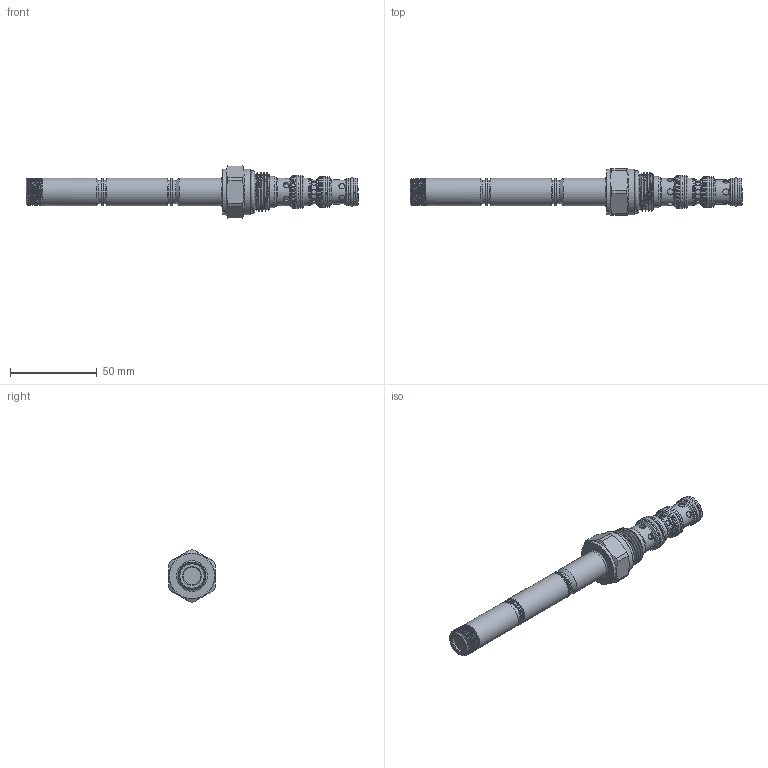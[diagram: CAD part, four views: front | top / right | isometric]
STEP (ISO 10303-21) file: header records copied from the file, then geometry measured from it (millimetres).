
FILE_DESCRIPTION(/* description */ ('','CAx-IF Rec.Pracs.---Representation and Presentation of Product Manufacturing Information (PMI)---4.0---2014-10-13'),/* implementation_level */ '2;1');
FILE_NAME(/* name */ 'P:\EARS\EAR16xx\EAR1683 - catalog pages changes\Group4a_4_Distributions_2_1_23\RTeck Agency_Tom_UNSENT\_step files\EDGS4M00.stp',/* time_stamp */ '2023-02-03T08:04:22-06:00',/* author */ ('Michael'),/* organization */ (''),/* preprocessor_version */ 'ST-DEVELOPER v17.2',/* originating_system */ 'Autodesk Inventor 2019',/* authorisation */ '');
FILE_SCHEMA (('AP242_MANAGED_MODEL_BASED_3D_ENGINEERING_MIM_LF { 1 0 10303 442 1 1 4 }'));
Length unit declared in the file: inch
Products named in the file (1): EDGS4M00
Bounding box: 191.3 x 27 x 29.99 mm (x, y, z)
Volume: 45582.5 mm3; surface area: 15063.2 mm2
Topology: 2 solids, 2 shells, 254 faces, 750 edges, 524 vertices
Faces by surface type: cylinder 122, plane 59, torus 35, cone 26, bspline 12
Full cylindrical faces by diameter (mm): 3 x8, 3.5 x12, 10 x2, 13 x1, 13.3 x4, 14 x1, 14.6 x2, 15 x2, 15.8 x2, 16 x13, 16.2 x2, 17.4 x2, 18 x1, 18.97 x2, 19.6 x2, 22.22 x2, 26.5 x2
Entity records: 17485 total; most frequent: CARTESIAN_POINT 10299, ORIENTED_EDGE 1502, DIRECTION 1452, EDGE_CURVE 751, AXIS2_PLACEMENT_3D 647, VERTEX_POINT 525, CIRCLE 380, EDGE_LOOP 283
